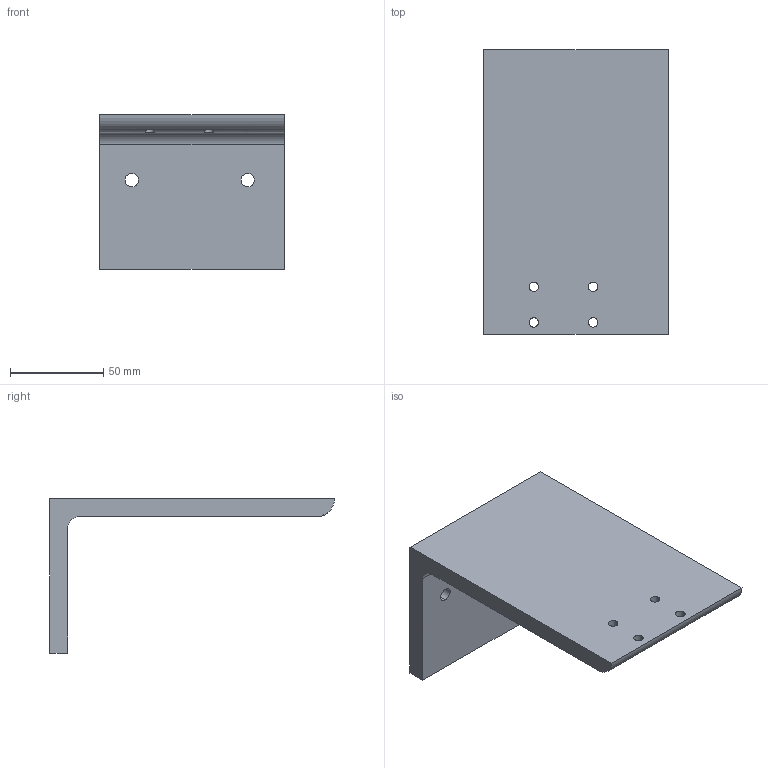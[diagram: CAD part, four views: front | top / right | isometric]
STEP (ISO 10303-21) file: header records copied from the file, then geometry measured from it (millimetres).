
FILE_DESCRIPTION (( 'STEP AP203' ), '1' );
FILE_NAME ('269-18-223.STEP', '2020-03-03T18:30:48', ( '' ), ( '' ), 'SwSTEP 2.0', 'SolidWorks 2017', '' );
FILE_SCHEMA (( 'CONFIG_CONTROL_DESIGN' ));
Length unit declared in the file: inch
Products named in the file (1): 269-18-223
Bounding box: 99.06 x 152.4 x 82.55 mm (x, y, z)
Volume: 210110.5 mm3; surface area: 50833.3 mm2
Topology: 1 solids, 1 shells, 21 faces, 57 edges, 38 vertices
Faces by surface type: cylinder 14, plane 7
Entity records: 898 total; most frequent: CARTESIAN_POINT 245, DIRECTION 121, ORIENTED_EDGE 114, EDGE_CURVE 57, AXIS2_PLACEMENT_3D 46, VERTEX_POINT 38, EDGE_LOOP 33, VECTOR 29
